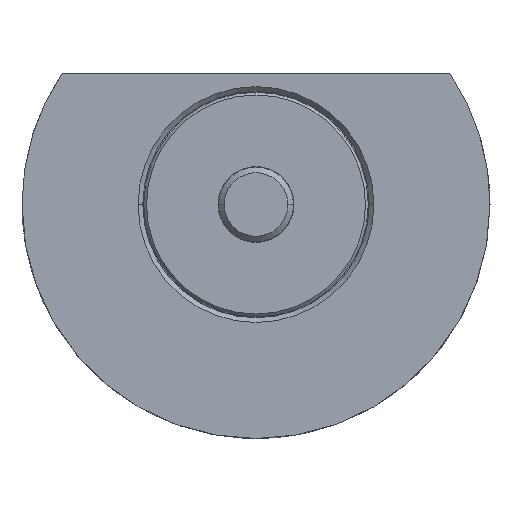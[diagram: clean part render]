
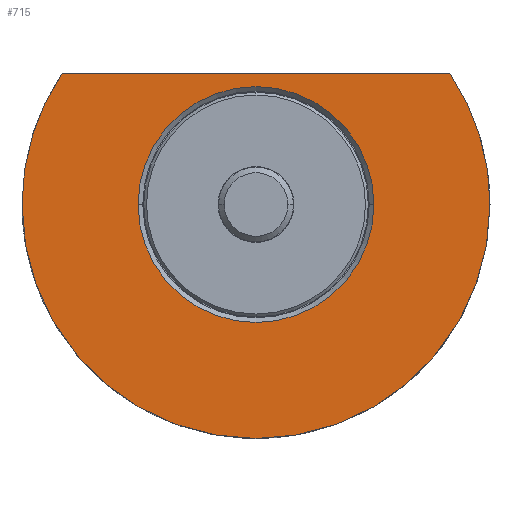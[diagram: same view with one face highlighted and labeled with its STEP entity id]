
A CAD part, front view. The second image highlights one B-rep face of the part: STEP entity #715.
In plain terms, the highlighted planar face has unit normal (0, -1, 0).
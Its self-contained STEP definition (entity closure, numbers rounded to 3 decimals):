
#35 = DIRECTION ( 'NONE',  ( 0., -1., 0. ) ) ;
#62 = DIRECTION ( 'NONE',  ( 0., 1., 0. ) ) ;
#70 = VECTOR ( 'NONE', #534, 1000. ) ;
#112 = AXIS2_PLACEMENT_3D ( 'NONE', #1441, #1804, #2229 ) ;
#130 = ORIENTED_EDGE ( 'NONE', *, *, #507, .T. ) ;
#206 = CIRCLE ( 'NONE', #860, 25. ) ;
#219 = CARTESIAN_POINT ( 'NONE',  ( 25., -12., 0. ) ) ;
#246 = DIRECTION ( 'NONE',  ( 1., 0., 0. ) ) ;
#258 = CARTESIAN_POINT ( 'NONE',  ( -12.6, -12., 0. ) ) ;
#293 = CIRCLE ( 'NONE', #1164, 12.6 ) ;
#314 = EDGE_CURVE ( 'NONE', #1240, #1274, #1403, .T. ) ;
#449 = EDGE_CURVE ( 'NONE', #2054, #1661, #740, .T. ) ;
#452 = DIRECTION ( 'NONE',  ( 0., 1., 0. ) ) ;
#493 = CIRCLE ( 'NONE', #1237, 25. ) ;
#507 = EDGE_CURVE ( 'NONE', #1696, #2117, #618, .T. ) ;
#534 = DIRECTION ( 'NONE',  ( -1., 0., 0. ) ) ;
#581 = ORIENTED_EDGE ( 'NONE', *, *, #449, .T. ) ;
#618 = CIRCLE ( 'NONE', #821, 12.6 ) ;
#715 = ADVANCED_FACE ( 'NONE', ( #839, #1228 ), #1626, .T. ) ;
#740 = LINE ( 'NONE', #2506, #70 ) ;
#741 = AXIS2_PLACEMENT_3D ( 'NONE', #1639, #35, #246 ) ;
#742 = DIRECTION ( 'NONE',  ( -1., 0., 0. ) ) ;
#752 = DIRECTION ( 'NONE',  ( 0., 1., 0. ) ) ;
#821 = AXIS2_PLACEMENT_3D ( 'NONE', #1659, #917, #2327 ) ;
#837 = CARTESIAN_POINT ( 'NONE',  ( 20.712, -12., 14. ) ) ;
#839 = FACE_BOUND ( 'NONE', #2028, .T. ) ;
#860 = AXIS2_PLACEMENT_3D ( 'NONE', #1487, #752, #2516 ) ;
#917 = DIRECTION ( 'NONE',  ( 0., 1., 0. ) ) ;
#1003 = CARTESIAN_POINT ( 'NONE',  ( -25., -12., 0. ) ) ;
#1056 = EDGE_CURVE ( 'NONE', #2054, #1240, #493, .T. ) ;
#1060 = CARTESIAN_POINT ( 'NONE',  ( 12.6, -12., 0. ) ) ;
#1164 = AXIS2_PLACEMENT_3D ( 'NONE', #2481, #62, #742 ) ;
#1228 = FACE_OUTER_BOUND ( 'NONE', #2498, .T. ) ;
#1237 = AXIS2_PLACEMENT_3D ( 'NONE', #1614, #452, #1651 ) ;
#1240 = VERTEX_POINT ( 'NONE', #219 ) ;
#1274 = VERTEX_POINT ( 'NONE', #1003 ) ;
#1403 = CIRCLE ( 'NONE', #112, 25. ) ;
#1441 = CARTESIAN_POINT ( 'NONE',  ( 0., -12., 0. ) ) ;
#1487 = CARTESIAN_POINT ( 'NONE',  ( 0., -12., 0. ) ) ;
#1614 = CARTESIAN_POINT ( 'NONE',  ( 0., -12., 0. ) ) ;
#1615 = ORIENTED_EDGE ( 'NONE', *, *, #1846, .T. ) ;
#1626 = PLANE ( 'NONE',  #741 ) ;
#1639 = CARTESIAN_POINT ( 'NONE',  ( -12.6, -12., 0. ) ) ;
#1651 = DIRECTION ( 'NONE',  ( -1., 0., 0. ) ) ;
#1659 = CARTESIAN_POINT ( 'NONE',  ( 0., -12., 0. ) ) ;
#1661 = VERTEX_POINT ( 'NONE', #2227 ) ;
#1696 = VERTEX_POINT ( 'NONE', #1060 ) ;
#1708 = ORIENTED_EDGE ( 'NONE', *, *, #314, .F. ) ;
#1804 = DIRECTION ( 'NONE',  ( 0., 1., 0. ) ) ;
#1846 = EDGE_CURVE ( 'NONE', #2117, #1696, #293, .T. ) ;
#1867 = ORIENTED_EDGE ( 'NONE', *, *, #1056, .F. ) ;
#2028 = EDGE_LOOP ( 'NONE', ( #130, #1615 ) ) ;
#2054 = VERTEX_POINT ( 'NONE', #837 ) ;
#2117 = VERTEX_POINT ( 'NONE', #258 ) ;
#2202 = EDGE_CURVE ( 'NONE', #1274, #1661, #206, .T. ) ;
#2227 = CARTESIAN_POINT ( 'NONE',  ( -20.712, -12., 14. ) ) ;
#2229 = DIRECTION ( 'NONE',  ( -1., 0., 0. ) ) ;
#2327 = DIRECTION ( 'NONE',  ( -1., 0., 0. ) ) ;
#2464 = ORIENTED_EDGE ( 'NONE', *, *, #2202, .F. ) ;
#2481 = CARTESIAN_POINT ( 'NONE',  ( 0., -12., 0. ) ) ;
#2498 = EDGE_LOOP ( 'NONE', ( #1867, #581, #2464, #1708 ) ) ;
#2506 = CARTESIAN_POINT ( 'NONE',  ( -12.6, -12., 14. ) ) ;
#2516 = DIRECTION ( 'NONE',  ( -1., 0., 0. ) ) ;
